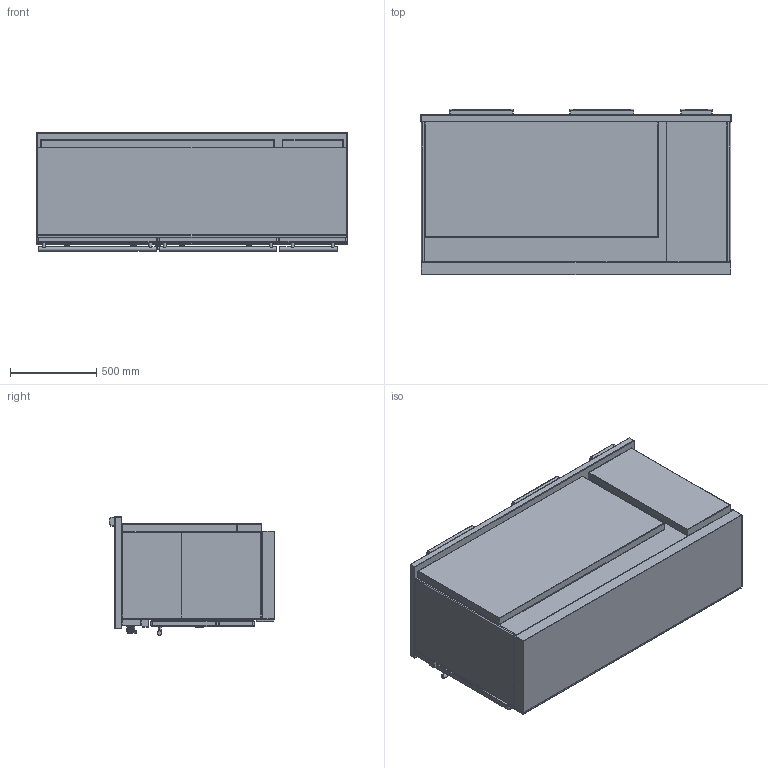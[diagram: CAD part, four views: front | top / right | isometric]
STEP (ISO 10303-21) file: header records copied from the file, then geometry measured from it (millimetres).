
FILE_DESCRIPTION((''),'2;1');
FILE_NAME('LMVI1832G_ASM','2022-04-13T11:55:43',('stagiaire'),(''),'CREO PARAMETRIC BY PTC INC, 2021424','CREO PARAMETRIC BY PTC INC, 2021424','');
FILE_SCHEMA(('AP203_CONFIGURATION_CONTROLLED_3D_DESIGN_OF_MECHANICAL_PARTS_AND_ASSEMBLIES_MIM_LF { 1 0 10303 403 2 1 2 }'));
Products named in the file (13): BASE_EXPORT_SULLY_LMVI1832G; 65064012; 19150009; 88064012_ASM; 65049009; 65650001; BASE_EXPORT_SULLY_LMVI1832G_ASM; TABLE_SULLY_1805G_INDUCTION_VTR; 65052012; CHEMINEE_2020_LG182_EXPORT_STEP; CHEMINEE_2020_LG371_EXPORT_STEP; TABLE_SULLY_1805G_INDUCTION_ASM; LMVI1832G_ASM
Assembly tree (17 placements, depth 4):
  LMVI1832G_ASM
    BASE_EXPORT_SULLY_LMVI1832G_ASM
      BASE_EXPORT_SULLY_LMVI1832G
      88064012_ASM  x5
        65064012
        19150009
      65049009
      65650001
    TABLE_SULLY_1805G_INDUCTION_ASM
      TABLE_SULLY_1805G_INDUCTION_VTR
      65052012
      CHEMINEE_2020_LG182_EXPORT_STEP
      CHEMINEE_2020_LG371_EXPORT_STEP  x2
Bounding box: 1805 x 963 x 688.5 mm (x, y, z)
Volume: 662308676.1 mm3; surface area: 15415559.5 mm2
Topology: 22 solids, 22 shells, 2838 faces, 8186 edges, 5231 vertices
Faces by surface type: plane 1276, cylinder 1070, sphere 208, bspline 190, torus 66, cone 26, extrusion 2
Entity records: 75365 total; most frequent: CARTESIAN_POINT 18505, DIRECTION 9824, ORIENTED_EDGE 9708, EDGE_CURVE 4854, VECTOR 3558, LINE 3556, AXIS2_PLACEMENT_3D 3115, VERTEX_POINT 3093
